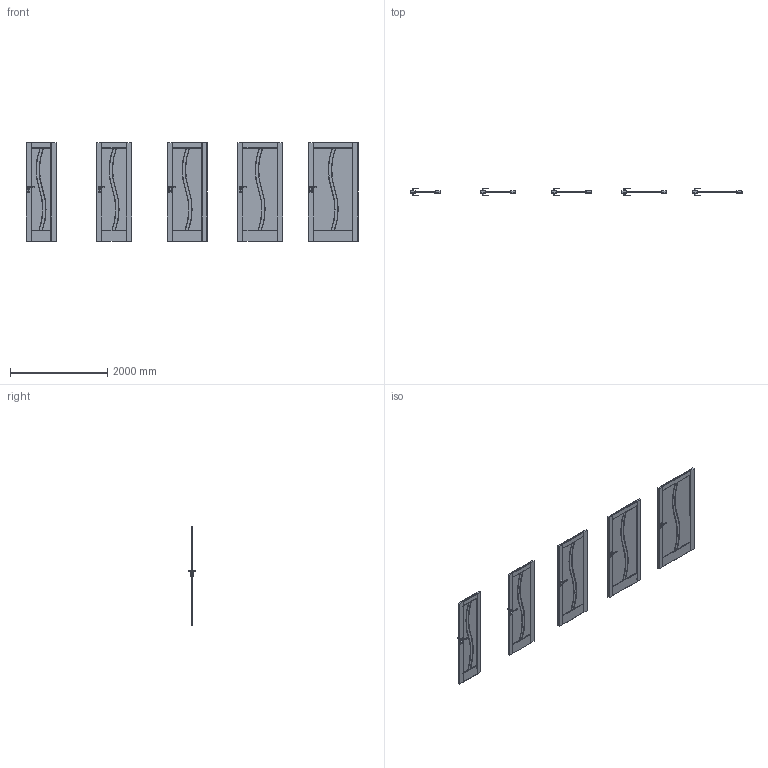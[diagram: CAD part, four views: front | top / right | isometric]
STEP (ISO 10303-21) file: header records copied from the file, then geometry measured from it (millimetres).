
FILE_DESCRIPTION(/* description */ (''),/* implementation_level */ '2;1');
FILE_NAME(/* name */ '049909_A_2-Skrzydło Verte Home model E.1_ polska norma _PN__ bezprzylgowe..stp',/* time_stamp */ '2024-09-13T11:05:43+02:00',/* author */ (''),/* organization */ (''),/* preprocessor_version */ 'ST-DEVELOPER v16',/* originating_system */ 'SIEMENS PLM Software NX 11.0',/* authorisation */ '');
FILE_SCHEMA (('AUTOMOTIVE_DESIGN { 1 0 10303 214 3 1 1 1 }'));
Products named in the file (1): bkni53901D95qqpp
Bounding box: 6818 x 153.13 x 2017.01 mm (x, y, z)
Volume: 178052170.9 mm3; surface area: 19938632.1 mm2
Topology: 25 solids, 85 shells, 2680 faces, 7195 edges, 4530 vertices
Faces by surface type: plane 1370, cylinder 570, cone 240, torus 200, bspline 160, sphere 140
Entity records: 93509 total; most frequent: CARTESIAN_POINT 26966, ORIENTED_EDGE 14110, DIRECTION 13617, EDGE_CURVE 7055, AXIS2_PLACEMENT_3D 5021, VERTEX_POINT 4530, LINE 3575, VECTOR 3575
